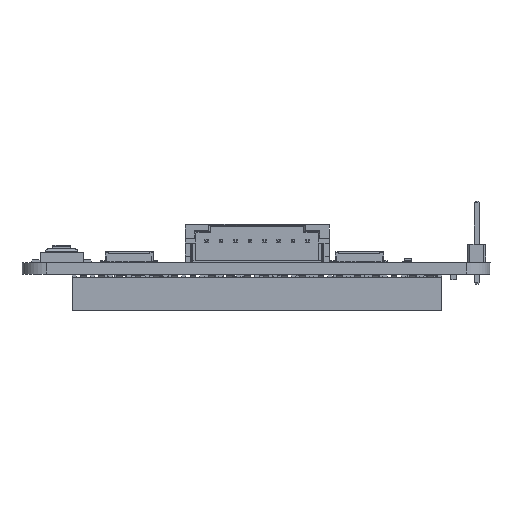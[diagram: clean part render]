
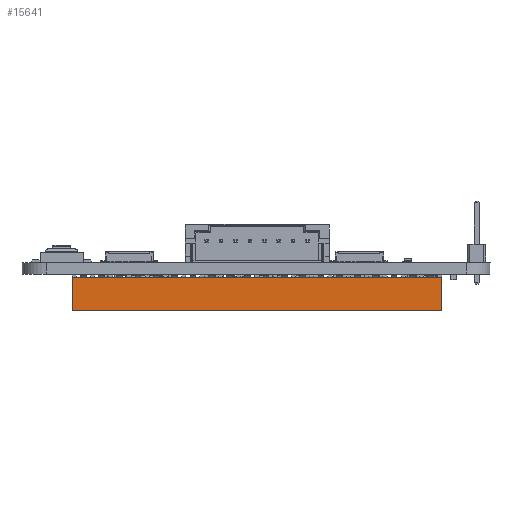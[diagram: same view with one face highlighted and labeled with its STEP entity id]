
A CAD part, front view. The second image highlights one B-rep face of the part: STEP entity #15641.
In plain terms, the highlighted planar face has unit normal (0, -1, 0) as drawn and (0, 0, 1) by its records, which use the part's own axes.
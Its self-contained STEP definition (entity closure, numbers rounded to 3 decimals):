
#13403=PLANE('',#66765);
#15641=ADVANCED_FACE('',(#19011),#13403,.T.);
#19011=FACE_OUTER_BOUND('',#21907,.T.);
#21907=EDGE_LOOP('',(#26539,#26540,#26541,#26542));
#26539=ORIENTED_EDGE('',*,*,#46788,.T.);
#26540=ORIENTED_EDGE('',*,*,#46878,.T.);
#26541=ORIENTED_EDGE('',*,*,#46877,.F.);
#26542=ORIENTED_EDGE('',*,*,#46623,.F.);
#41421=VERTEX_POINT('',#89106);
#41422=VERTEX_POINT('',#89108);
#41586=VERTEX_POINT('',#89437);
#41670=VERTEX_POINT('',#89609);
#46623=EDGE_CURVE('',#41421,#41422,#54264,.T.);
#46788=EDGE_CURVE('',#41421,#41586,#54429,.T.);
#46877=EDGE_CURVE('',#41422,#41670,#54518,.T.);
#46878=EDGE_CURVE('',#41586,#41670,#54519,.T.);
#54264=LINE('',#89107,#60533);
#54429=LINE('',#89438,#60698);
#54518=LINE('',#89615,#60787);
#54519=LINE('',#89617,#60788);
#60533=VECTOR('',#70681,1.);
#60698=VECTOR('',#70848,1.);
#60787=VECTOR('',#70941,1.);
#60788=VECTOR('',#70944,1.);
#66765=AXIS2_PLACEMENT_3D('',#89618,#70945,#70946);
#70681=DIRECTION('',(1.,0.,0.));
#70848=DIRECTION('',(0.,-1.,0.));
#70941=DIRECTION('',(0.,-1.,0.));
#70944=DIRECTION('',(1.,0.,0.));
#70945=DIRECTION('',(0.,0.,1.));
#70946=DIRECTION('',(-1.,0.,0.));
#89106=CARTESIAN_POINT('',(-25.65,5.,2.6));
#89107=CARTESIAN_POINT('',(-25.65,5.,2.6));
#89108=CARTESIAN_POINT('',(25.65,5.,2.6));
#89437=CARTESIAN_POINT('',(-25.65,0.4,2.6));
#89438=CARTESIAN_POINT('',(-25.65,2.52,2.6));
#89609=CARTESIAN_POINT('',(25.65,0.4,2.6));
#89615=CARTESIAN_POINT('',(25.65,2.52,2.6));
#89617=CARTESIAN_POINT('',(-25.65,0.4,2.6));
#89618=CARTESIAN_POINT('',(-25.65,0.4,2.6));
